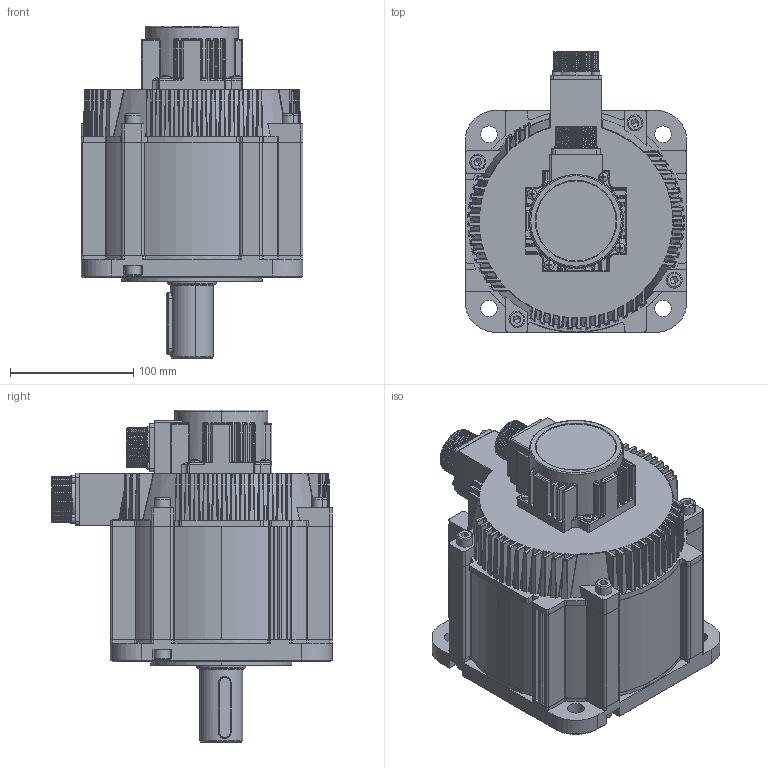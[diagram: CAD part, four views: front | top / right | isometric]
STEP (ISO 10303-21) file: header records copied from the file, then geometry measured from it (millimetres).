
FILE_DESCRIPTION (( 'STEP AP203' ), '1' );
FILE_NAME ('180AST-M19015.STEP', '2019-11-08T06:53:14', ( '' ), ( '' ), 'SwSTEP 2.0', 'SolidWorks 2015', '' );
FILE_SCHEMA (( 'CONFIG_CONTROL_DESIGN' ));
Length unit declared in the file: millimetre
Products named in the file (1): 180AST-M19015
Bounding box: 180 x 227.5 x 269.4 mm (x, y, z)
Volume: 1738958.6 mm3; surface area: 508368.2 mm2
Topology: 29 solids, 29 shells, 2544 faces, 6368 edges, 3792 vertices
Faces by surface type: cylinder 820, plane 737, bspline 392, torus 221, cone 189, sphere 185
Entity records: 88880 total; most frequent: CARTESIAN_POINT 31687, ORIENTED_EDGE 12288, DIRECTION 11741, EDGE_CURVE 6144, AXIS2_PLACEMENT_3D 4741, VERTEX_POINT 3760, EDGE_LOOP 2720, CIRCLE 2588
